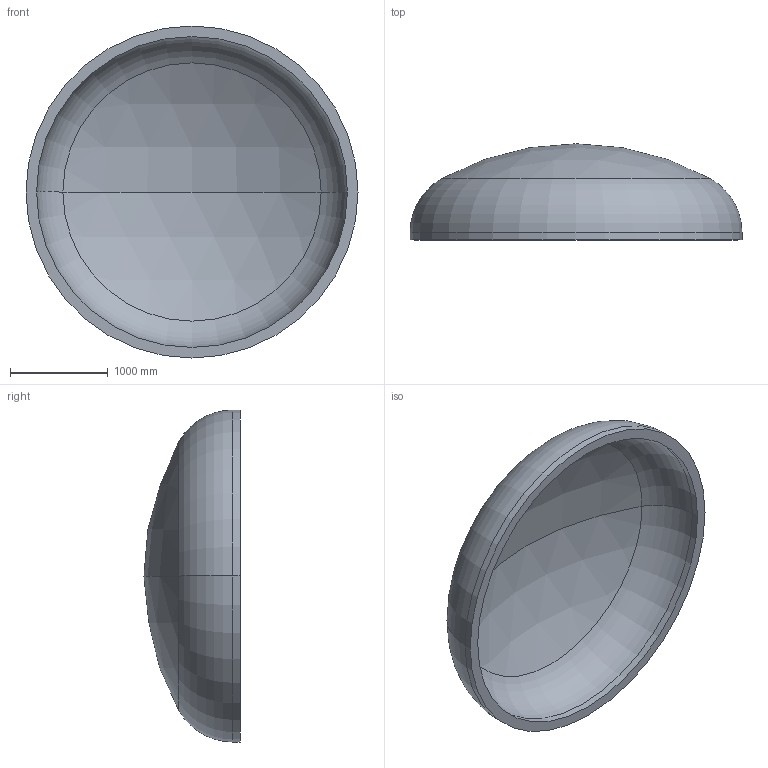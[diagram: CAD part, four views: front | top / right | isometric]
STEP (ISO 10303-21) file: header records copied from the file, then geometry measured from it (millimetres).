
FILE_DESCRIPTION (( 'STEP AP203' ), '1' );
FILE_NAME ('DIN 28013 Korbbogenform_-_Boden DIN 28013 - 3400 x 75 - I - s=108.step', '2016-07-01T19:55:08', ( '' ), ( '' ), 'SwSTEP 2.0', 'SolidWorks 2013', '' );
FILE_SCHEMA (( 'CONFIG_CONTROL_DESIGN' ));
Length unit declared in the file: millimetre
Products named in the file (1): DIN 28013 Korbbogenform_-_Boden DIN 28013 - 3400 x 75 - I - s=108
Bounding box: 3400 x 984.79 x 3400 mm (x, y, z)
Volume: 1387400347.8 mm3; surface area: 26833968.8 mm2
Topology: 1 solids, 1 shells, 13 faces, 24 edges, 14 vertices
Faces by surface type: torus 4, cylinder 4, sphere 4, plane 1
Entity records: 407 total; most frequent: DIRECTION 72, CARTESIAN_POINT 52, ORIENTED_EDGE 48, AXIS2_PLACEMENT_3D 34, EDGE_CURVE 24, CIRCLE 20, EDGE_LOOP 14, VERTEX_POINT 14
